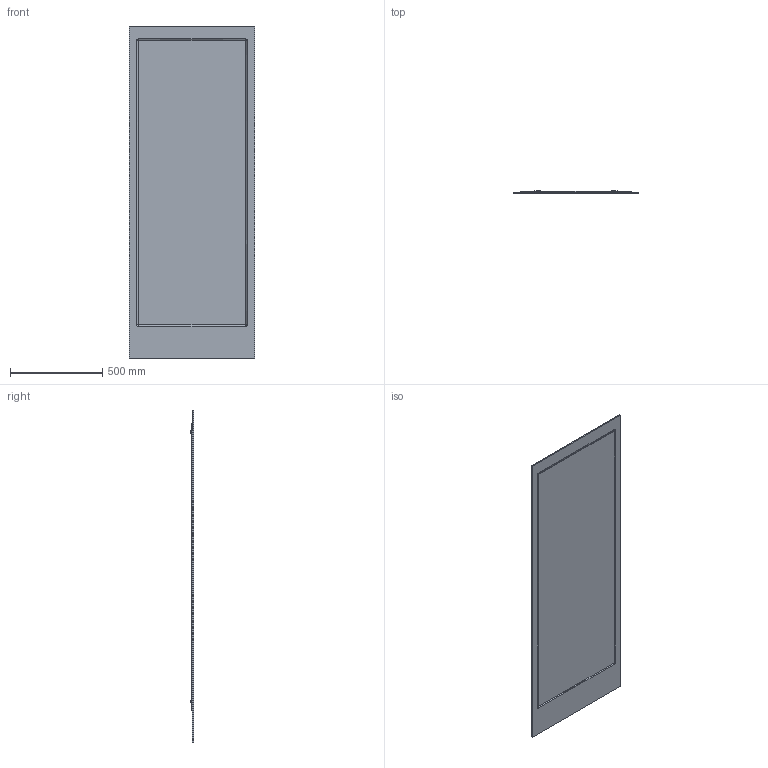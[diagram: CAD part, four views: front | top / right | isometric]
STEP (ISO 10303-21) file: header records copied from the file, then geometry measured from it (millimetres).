
FILE_DESCRIPTION(/* description */ (''),/* implementation_level */ '2;1');
FILE_NAME(/* name */ 'IST68_3D',/* time_stamp */ '2026-06-29T16:56:43+02:00',/* author */ (''),/* organization */ (''),/* preprocessor_version */ 'ST-DEVELOPER v16.5',/* originating_system */ '',/* authorisation */ '');
FILE_SCHEMA (('CONFIG_CONTROL_DESIGN'));
Length unit declared in the file: millimetre
Products named in the file (1): Document
Bounding box: 680 x 16.6 x 1800 mm (x, y, z)
Volume: 12677227.4 mm3; surface area: 5906458.2 mm2
Topology: 7 solids, 7 shells, 110 faces, 272 edges, 170 vertices
Faces by surface type: plane 90, bspline 20
Entity records: 4817 total; most frequent: CARTESIAN_POINT 2892, ORIENTED_EDGE 528, EDGE_CURVE 264, B_SPLINE_CURVE_WITH_KNOTS 233, VERTEX_POINT 170, EDGE_LOOP 120, ADVANCED_FACE 110, FACE_OUTER_BOUND 110
